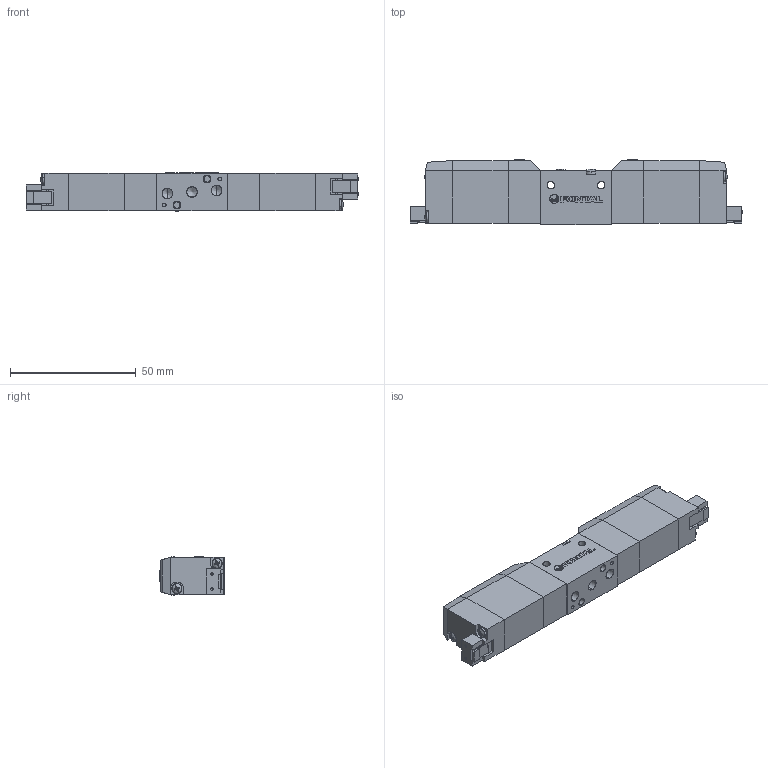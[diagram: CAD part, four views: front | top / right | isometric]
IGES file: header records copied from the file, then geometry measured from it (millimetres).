
Start section: SolidWorks IGES file using analytic representation for surfaces
Global section: file name: D:\Custom\3D繪製\PC\RC5\RCD245#-M5-#-SP-#.IGS,1; native system: 5HSolidWorks 2014; preprocessor: SolidWorks 2014; author: Chieh_Lu; date: 150809.173216; units: millimetre
Bounding box: 132 x 26 x 15.4 mm (x, y, z)
Surface area: 18543.3 mm2 (no closed solid volume)
Topology: 0 solids, 0 shells, 606 faces, 5104 edges, 5082 vertices
Faces by surface type: bspline 417, revolution 189
